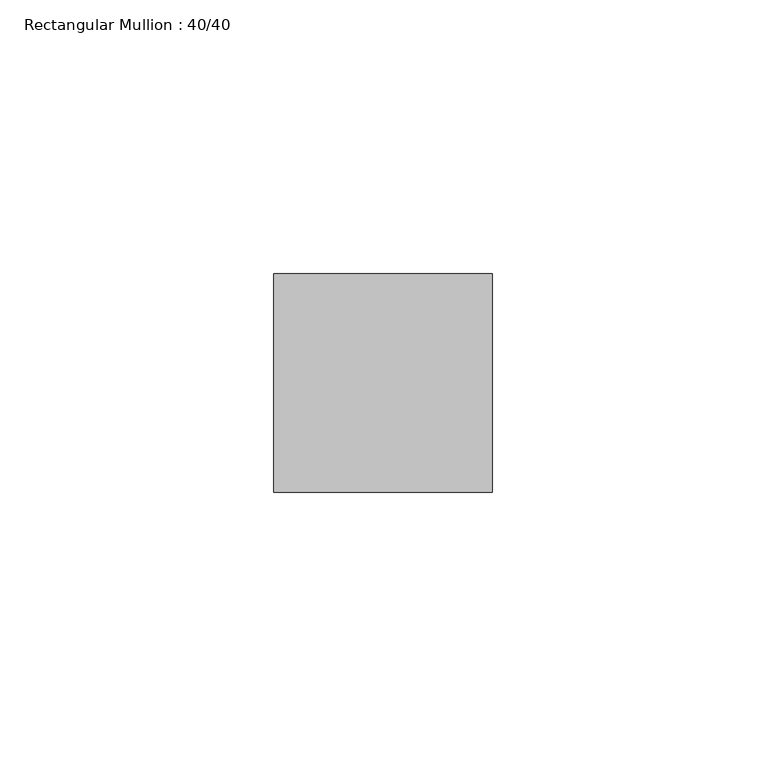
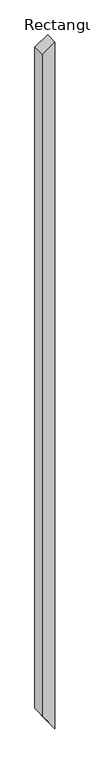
"""IFC4 building model written with IfcOpenShell, lengths in millimetres: member geometry, Rectangular Mullion : 40/40."""

from ifc_helpers import new_model, si_unit, frame, origin, place, context, project, spatial, polyline, outline, extrude, source, transform, mapped, element, save


def rectangular_mullion_40_40_5bffcd9d(model_context):
    return source(origin(), model_context, "Body", "SweptSolid", [
        extrude(outline(polyline([(0.0, 0.0), (-27.3853201, -40.0), (-2226.4893953, -40.0), (-2284.9148581, 0.0), (0.0, 0.0)])), frame((0.0, -20.0, 0.0), z_axis=(0.0, 1.0, 0.0), x_axis=(0.0, 0.0, 1.0)), (0.0, 0.0, 1.0), 40.0),
    ])


if __name__ == "__main__":
    model = new_model("IFC4")
    model_context = context("Model", 3, world=origin())
    ifc_project = project(units=[si_unit("LENGTHUNIT", "METRE", prefix="MILLI")], contexts=[model_context])
    site = spatial("IfcSite", under=ifc_project)
    building = spatial("IfcBuilding", under=site)
    placement = place(None, origin())
    rectangular_mullion_40_40_shape = rectangular_mullion_40_40_5bffcd9d(model_context)
    element("IfcMember", 1, ObjectType="Rectangular Mullion : 40/40", at=placement, inside=building, context=model_context, shape_type="MappedRepresentation", body=[
        mapped(rectangular_mullion_40_40_shape, transform((0.0, 0.0, 0.0), x_axis=(1.0, 0.0, 0.0), y_axis=(0.0, 1.0, 0.0), z_axis=(0.0, 0.0, 1.0))),
    ])
    save(model, "model.ifc")
